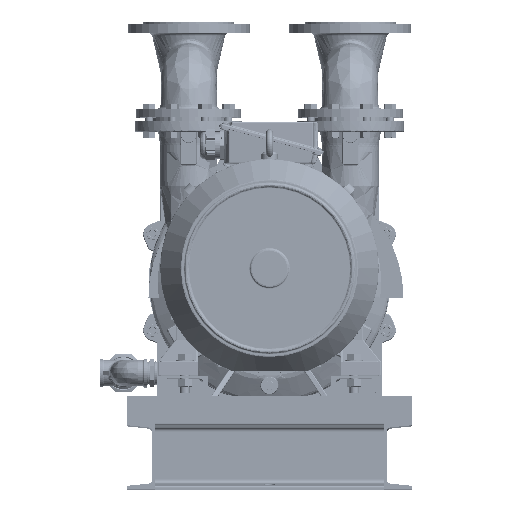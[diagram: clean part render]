
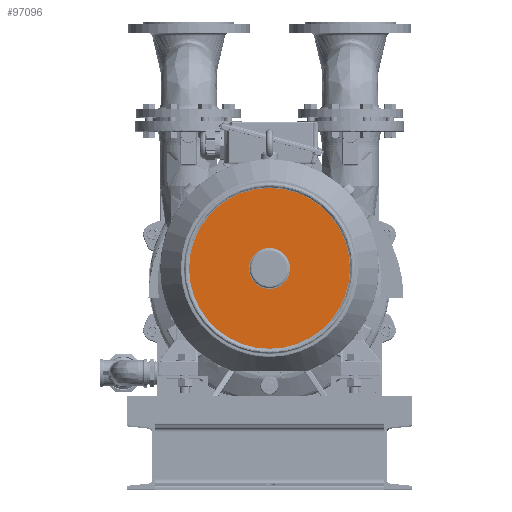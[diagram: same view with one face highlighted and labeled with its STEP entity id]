
A CAD part, top view. The second image highlights one B-rep face of the part: STEP entity #97096.
In plain terms, the highlighted planar face has unit normal (0, 0, 1).
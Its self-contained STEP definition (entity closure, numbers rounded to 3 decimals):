
#16095 = CIRCLE ( 'NONE', #183723, 43. ) ;
#41813 = AXIS2_PLACEMENT_3D ( 'NONE', #192760, #368956, #713992 ) ;
#71866 = DIRECTION ( 'NONE',  ( 0., 0., 1. ) ) ;
#73272 = DIRECTION ( 'NONE',  ( 0., 0., 1. ) ) ;
#76961 = EDGE_CURVE ( 'NONE', #205430, #674742, #554657, .T. ) ;
#88347 = CARTESIAN_POINT ( 'NONE',  ( 5.892, -121.927, 1317.5 ) ) ;
#97096 = ADVANCED_FACE ( 'NONE', ( #627484, #222546 ), #342455, .F. ) ;
#137940 = EDGE_CURVE ( 'NONE', #674742, #205430, #16095, .T. ) ;
#146030 = EDGE_LOOP ( 'NONE', ( #207764, #742580 ) ) ;
#153910 = AXIS2_PLACEMENT_3D ( 'NONE', #451367, #462415, #680111 ) ;
#183723 = AXIS2_PLACEMENT_3D ( 'NONE', #699624, #73272, #541899 ) ;
#191811 = CARTESIAN_POINT ( 'NONE',  ( -163.108, -121.927, 1317.5 ) ) ;
#192760 = CARTESIAN_POINT ( 'NONE',  ( -163.108, -121.927, 1317.5 ) ) ;
#205430 = VERTEX_POINT ( 'NONE', #708599 ) ;
#207764 = ORIENTED_EDGE ( 'NONE', *, *, #137940, .F. ) ;
#222546 = FACE_OUTER_BOUND ( 'NONE', #585713, .T. ) ;
#249014 = CARTESIAN_POINT ( 'NONE',  ( -206.108, -121.927, 1317.5 ) ) ;
#279256 = CIRCLE ( 'NONE', #722051, 169. ) ;
#284776 = EDGE_CURVE ( 'NONE', #478745, #635387, #352835, .T. ) ;
#337263 = CARTESIAN_POINT ( 'NONE',  ( -163.108, -121.927, 1317.5 ) ) ;
#342455 = PLANE ( 'NONE',  #153910 ) ;
#352835 = CIRCLE ( 'NONE', #41813, 169. ) ;
#368956 = DIRECTION ( 'NONE',  ( 0., 0., 1. ) ) ;
#427537 = ORIENTED_EDGE ( 'NONE', *, *, #534594, .T. ) ;
#451367 = CARTESIAN_POINT ( 'NONE',  ( 7.92, -292.955, 1317.5 ) ) ;
#462415 = DIRECTION ( 'NONE',  ( 0., 0., -1. ) ) ;
#478745 = VERTEX_POINT ( 'NONE', #88347 ) ;
#481203 = ORIENTED_EDGE ( 'NONE', *, *, #284776, .T. ) ;
#498749 = DIRECTION ( 'NONE',  ( 1., 0., 0. ) ) ;
#524719 = CARTESIAN_POINT ( 'NONE',  ( -332.108, -121.927, 1317.5 ) ) ;
#534594 = EDGE_CURVE ( 'NONE', #635387, #478745, #279256, .T. ) ;
#541899 = DIRECTION ( 'NONE',  ( -1., 0., 0. ) ) ;
#554657 = CIRCLE ( 'NONE', #602784, 43. ) ;
#585713 = EDGE_LOOP ( 'NONE', ( #481203, #427537 ) ) ;
#596732 = DIRECTION ( 'NONE',  ( -1., 0., 0. ) ) ;
#602784 = AXIS2_PLACEMENT_3D ( 'NONE', #191811, #71866, #596732 ) ;
#627484 = FACE_BOUND ( 'NONE', #146030, .T. ) ;
#635387 = VERTEX_POINT ( 'NONE', #524719 ) ;
#674742 = VERTEX_POINT ( 'NONE', #249014 ) ;
#680111 = DIRECTION ( 'NONE',  ( -1., 0., 0. ) ) ;
#699624 = CARTESIAN_POINT ( 'NONE',  ( -163.108, -121.927, 1317.5 ) ) ;
#708599 = CARTESIAN_POINT ( 'NONE',  ( -120.108, -121.927, 1317.5 ) ) ;
#713992 = DIRECTION ( 'NONE',  ( 1., 0., 0. ) ) ;
#722051 = AXIS2_PLACEMENT_3D ( 'NONE', #337263, #731198, #498749 ) ;
#731198 = DIRECTION ( 'NONE',  ( 0., 0., 1. ) ) ;
#742580 = ORIENTED_EDGE ( 'NONE', *, *, #76961, .F. ) ;
